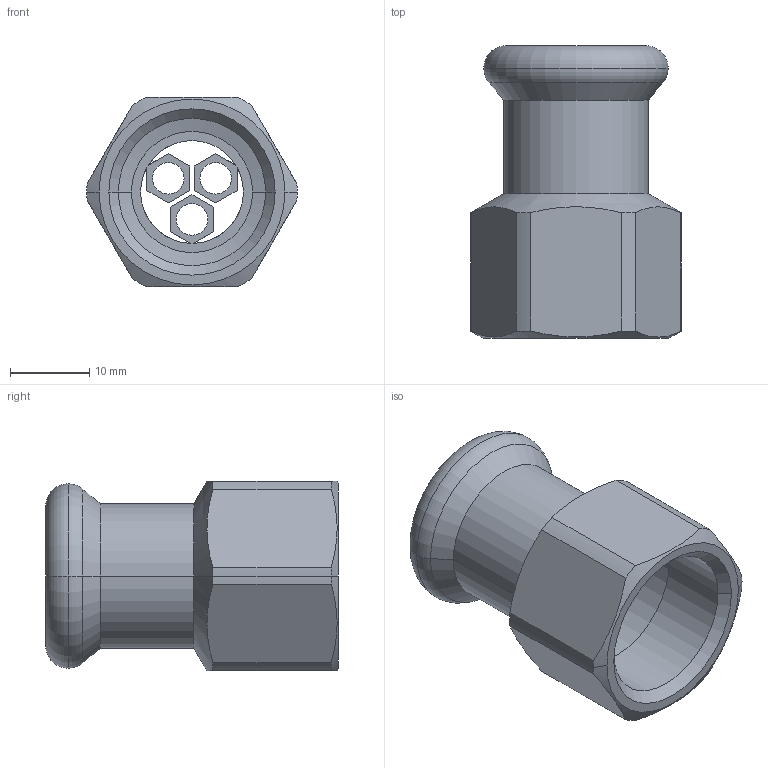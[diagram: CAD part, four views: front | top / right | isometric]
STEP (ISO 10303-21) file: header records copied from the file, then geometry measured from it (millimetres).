
FILE_DESCRIPTION(('OneSpaceDesigner STEP Export'),'2;1');
FILE_NAME('R2702 15xRp1-2.stp','2010-06-08T13:40:25',(''),(''),'OneSpace Designer STEP processor for AP214 (Solid Model)','OneSpace Modeling 15.00A 14-Mar-2007 (C) CoCreate Software GmbH','');
FILE_SCHEMA(('AUTOMOTIVE_DESIGN { 1 0 10303 214 1 1 1 1 }'));
Length unit declared in the file: millimetre
Products named in the file (2): R2702_15xRp1-2
Assembly tree (1 placements, depth 2):
  R2702_15xRp1-2
    R2702_15xRp1-2
Bounding box: 26.6 x 37 x 24 mm (x, y, z)
Volume: 5878.8 mm3; surface area: 5583.4 mm2
Topology: 1 solids, 1 shells, 80 faces, 206 edges, 131 vertices
Faces by surface type: plane 35, cylinder 29, cone 12, torus 4
Entity records: 2956 total; most frequent: CARTESIAN_POINT 1175, ORIENTED_EDGE 412, DIRECTION 295, EDGE_CURVE 206, VERTEX_POINT 131, VECTOR 113, LINE 113, AXIS2_PLACEMENT_3D 91
